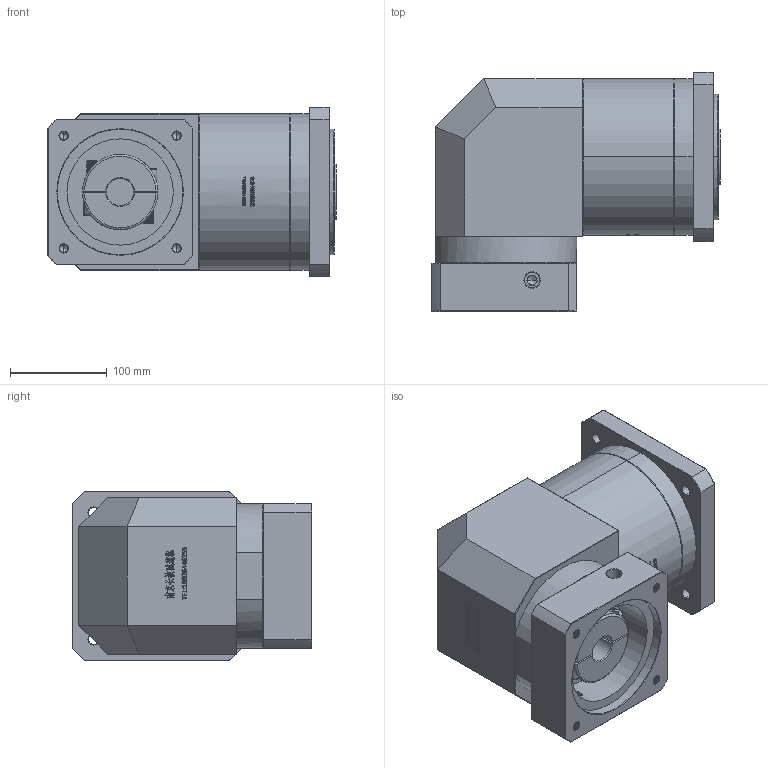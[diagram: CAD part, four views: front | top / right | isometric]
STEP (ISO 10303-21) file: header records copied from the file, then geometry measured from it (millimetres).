
FILE_DESCRIPTION (( 'STEP AP214' ), '1' );
FILE_NAME ('ZFR160A-K35-L2-28-130-165-M10.step', '2023-03-22T11:48:20', ( '' ), ( '' ), 'SwSTEP 2.0', 'SolidWorks 2016', '' );
FILE_SCHEMA (( 'AUTOMOTIVE_DESIGN' ));
Length unit declared in the file: millimetre
Products named in the file (1): ZFR160A-K35-L2-28-130-165-M10
Bounding box: 298.7 x 247.5 x 175 mm (x, y, z)
Volume: 7293345.7 mm3; surface area: 455769.3 mm2
Topology: 6 solids, 6 shells, 2457 faces, 6466 edges, 4161 vertices
Faces by surface type: plane 1268, bspline 494, cylinder 374, cone 301, torus 20
Entity records: 137124 total; most frequent: CARTESIAN_POINT 53613, ORIENTED_EDGE 12876, DIRECTION 9805, EDGE_CURVE 6438, VERTEX_POINT 4161, VECTOR 4093, LINE 4093, AXIS2_PLACEMENT_3D 2856
